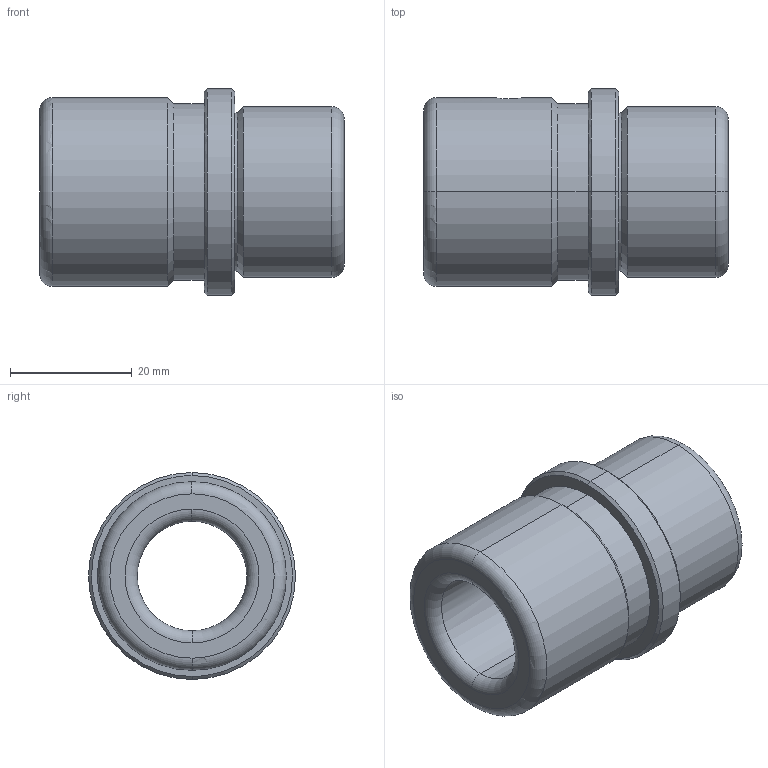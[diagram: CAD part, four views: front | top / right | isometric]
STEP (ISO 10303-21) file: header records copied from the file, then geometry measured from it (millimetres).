
FILE_DESCRIPTION(('CATIA V5 STEP Exchange'),'2;1');
FILE_NAME('C:\Users\Utente\Desktop\IO LAVORO\3D X SITO CF\X SITO\FAMO\FAMO-SF1-C18 x 50.stp','2021-01-06T17:10:35+00:00',('none'),('none'),'CATIA Version 5 Release 20 GA (IN-10)','CATIA V5 STEP AP203','none');
FILE_SCHEMA(('CONFIG_CONTROL_DESIGN'));
Length unit declared in the file: millimetre
Products named in the file (1): FAMO-SF1-C18 x 50
Bounding box: 50 x 34 x 34 mm (x, y, z)
Volume: 22106.7 mm3; surface area: 8958.6 mm2
Topology: 1 solids, 1 shells, 37 faces, 117 edges, 85 vertices
Faces by surface type: cylinder 14, cone 10, torus 8, plane 5
Entity records: 1542 total; most frequent: CARTESIAN_POINT 455, ORIENTED_EDGE 234, DIRECTION 180, AXIS2_PLACEMENT_3D 120, EDGE_CURVE 117, VERTEX_POINT 85, CIRCLE 82, EDGE_LOOP 44
